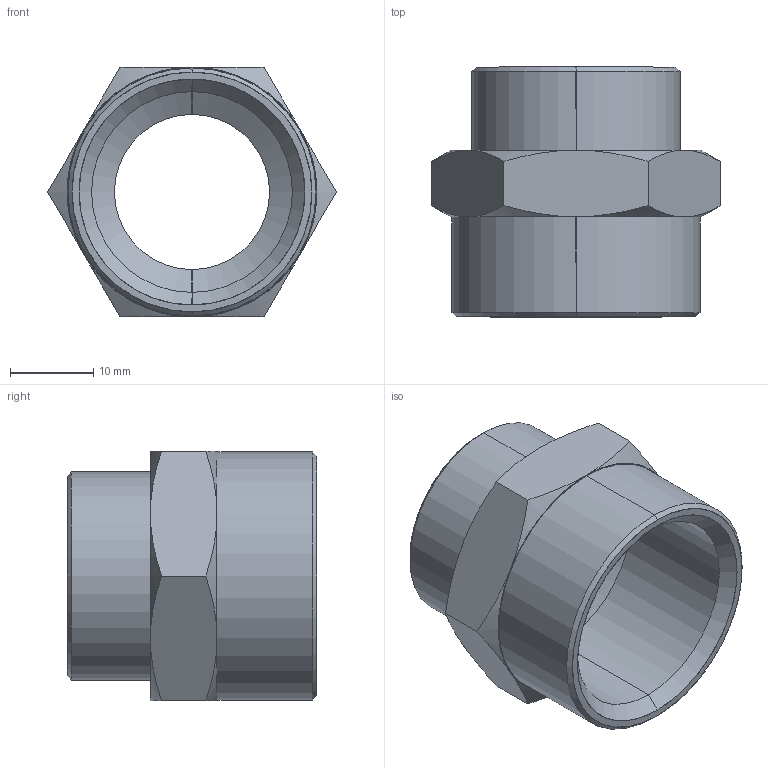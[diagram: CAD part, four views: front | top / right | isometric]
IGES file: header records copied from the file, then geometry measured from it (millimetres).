
Start section: SolidWorks IGES file using analytic representation for surfaces
Global section: file name: K:\Disegni Esecutivi\Accessori\3010\030100001AH00.IGS; native system: SolidWorks 2007; preprocessor: SolidWorks 2007; author: cad02; date: 071019.141606; units: millimetre
Bounding box: 34.64 x 30 x 30 mm (x, y, z)
Surface area: 5493.6 mm2 (no closed solid volume)
Topology: 0 solids, 0 shells, 40 faces, 640 edges, 640 vertices
Faces by surface type: revolution 30, bspline 10
